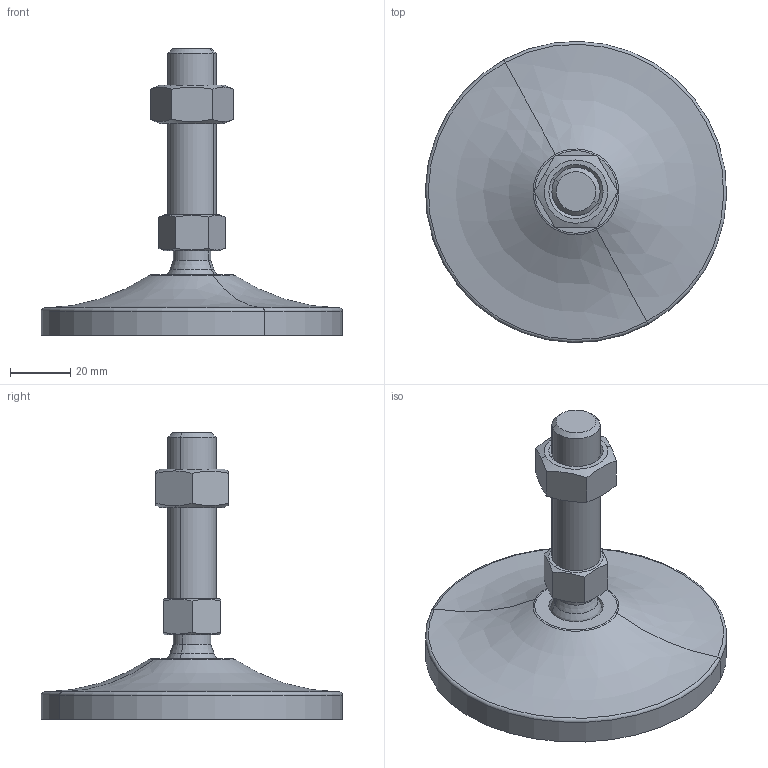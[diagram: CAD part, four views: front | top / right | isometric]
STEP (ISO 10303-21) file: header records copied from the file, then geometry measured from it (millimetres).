
FILE_DESCRIPTION(('CATIA V5 STEP Exchange'),'2;1');
FILE_NAME('C:\Users\ALI OZGUN\Desktop\alhan\saplama2\560101610.stp','2017-09-21T10:34:50+00:00',('none'),('none'),'CATIA Version 5 Release 21 GA (IN-10)','CATIA V5 STEP AP203','none');
FILE_SCHEMA(('CONFIG_CONTROL_DESIGN'));
Length unit declared in the file: millimetre
Products named in the file (1): 560101610
Bounding box: 99.97 x 99.97 x 95 mm (x, y, z)
Volume: 82783.4 mm3; surface area: 27616.6 mm2
Topology: 3 solids, 3 shells, 60 faces, 136 edges, 83 vertices
Faces by surface type: plane 20, cone 16, cylinder 14, torus 4, revolution 4, sphere 2
Entity records: 1857 total; most frequent: CARTESIAN_POINT 615, ORIENTED_EDGE 268, DIRECTION 185, EDGE_CURVE 134, AXIS2_PLACEMENT_3D 99, VERTEX_POINT 83, EDGE_LOOP 67, ADVANCED_FACE 60
